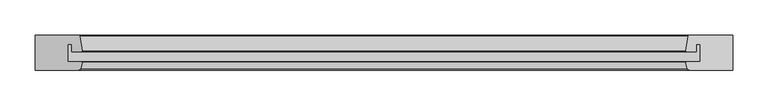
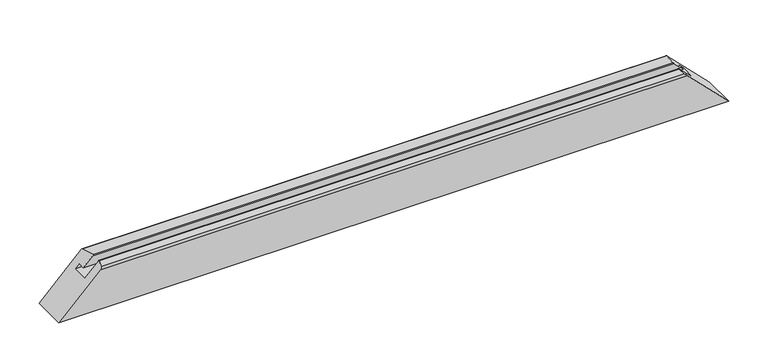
"""IFC4 building model written with IfcOpenShell, lengths in millimetres: proxy geometry, Weiku - Montante - Caixilho fixo 02.2.01.005 : Weiku - Montante - Caixilho fixo 02.2.01.005."""

from ifc_helpers import new_model, si_unit, frame, origin, place, context, project, spatial, ellipse_curve, source, transform, mapped, element, save
from ifc_brep_helpers import plane_surface, cylinder_surface, advanced_brep


def generic_models_4b9735fc(model_context):
    return source(origin(), model_context, "Body", "AdvancedBrep", [
        advanced_brep(
        [(-428.118227, -38.5070552, 66.881773), (-428.8909676, -37.5, 66.1090324), (-449.0, -37.5, 46.0), (-449.0, -12.5, 46.0), (-443.0009154, -12.5, 51.9990846), (-443.0009154, -23.5, 51.9990846), (-428.9865015, -23.5, 66.0134985), (-427.9998537, -22.3371317, 67.0001463), (-431.5489094, -0.8371317, 63.4510906), (-432.5355572, 0.0, 62.4644428), (-495.0, 0.0, 0.0), (-495.0, -50.0, 0.0), (-433.4997332, -50.0, 61.5002668), (-430.6019557, -47.7764571, 64.3980443), (430.6019557, -47.7764571, 64.3980443), (433.4997332, -50.0, 61.5002668), (495.0, -50.0, 0.0), (495.0, 0.0, 0.0), (432.5355572, 0.0, 62.4644428), (431.5489094, -0.8371317, 63.4510906), (427.9998537, -22.3371317, 67.0001463), (428.9865015, -23.5, 66.0134985), (443.0009154, -23.5, 51.9990846), (443.0009154, -12.5, 51.9990846), (449.0, -12.5, 46.0), (449.0, -37.5, 46.0), (428.8909676, -37.5, 66.1090324), (428.118227, -38.5070552, 66.881773)],
        [
            (0, 1, ellipse_curve(frame((-428.8909676, -38.3, 66.1090324), z_axis=(-0.7071067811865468, 0.0, 0.7071067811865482), x_axis=(-0.7071067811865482, 0.0, -0.7071067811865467)), 1.1313708, 0.8)),
            (1, 2),
            (2, 3),
            (3, 4),
            (4, 5),
            (5, 6),
            (6, 7, ellipse_curve(frame((-428.9865015, -22.5, 66.0134985), z_axis=(-0.7071067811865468, 0.0, 0.7071067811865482), x_axis=(-0.7071067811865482, 0.0, -0.7071067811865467)), 1.4142136, 1.0)),
            (7, 8),
            (8, 9, ellipse_curve(frame((-432.5355572, -1.0, 62.4644428), z_axis=(-0.7071067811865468, 0.0, 0.7071067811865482), x_axis=(-0.7071067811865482, 0.0, -0.7071067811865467)), 1.4142136, 1.0)),
            (9, 10),
            (10, 11),
            (11, 12),
            (12, 13, ellipse_curve(frame((-433.4997332, -47.0, 61.5002668), z_axis=(-0.7071067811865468, 0.0, 0.7071067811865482), x_axis=(-0.7071067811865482, 0.0, -0.7071067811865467)), 4.2426407, 3.0)),
            (13, 0),
            (14, 15, ellipse_curve(frame((433.4997332, -47.0, 61.5002668), z_axis=(0.7071067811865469, 0.0, 0.7071067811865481), x_axis=(-0.7071067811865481, 0.0, 0.7071067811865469)), 4.2426407, 3.0)),
            (15, 16),
            (16, 17),
            (17, 18),
            (18, 19, ellipse_curve(frame((432.5355572, -1.0, 62.4644428), z_axis=(0.7071067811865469, 0.0, 0.7071067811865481), x_axis=(-0.7071067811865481, 0.0, 0.7071067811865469)), 1.4142136, 1.0)),
            (19, 20),
            (20, 21, ellipse_curve(frame((428.9865015, -22.5, 66.0134985), z_axis=(0.7071067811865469, 0.0, 0.7071067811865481), x_axis=(-0.7071067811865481, 0.0, 0.7071067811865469)), 1.4142136, 1.0)),
            (21, 22),
            (22, 23),
            (23, 24),
            (24, 25),
            (25, 26),
            (26, 27, ellipse_curve(frame((428.8909676, -38.3, 66.1090324), z_axis=(0.7071067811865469, 0.0, 0.7071067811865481), x_axis=(-0.7071067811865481, 0.0, 0.7071067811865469)), 1.1313708, 0.8)),
            (27, 14),
            (13, 14),
            (27, 0),
            (12, 15),
            (11, 16),
            (10, 17),
            (9, 18),
            (8, 19),
            (7, 20),
            (6, 21),
            (5, 22),
            (4, 23),
            (3, 24),
            (2, 25),
            (1, 26),
        ],
        [
            plane_surface(frame((-565.0, 15.0, -70.0), z_axis=(-0.7071067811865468, 0.0, 0.7071067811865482), x_axis=(0.0, -1.0, 0.0))),
            plane_surface(frame((425.0, 15.0, 70.0), z_axis=(0.7071067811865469, 0.0, 0.7071067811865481), x_axis=(0.0, -1.0, 0.0))),
            plane_surface(frame((-495.0, -38.5070552, 66.881773), z_axis=(0.0, -0.2588190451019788, 0.9659258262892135), x_axis=(1.0, 0.0, 0.0))),
            cylinder_surface(frame((-495.0, -47.0, 61.5002668), z_axis=(-1.0, 0.0, 0.0), x_axis=(0.0, 1.0, 0.0)), 3.0),
            plane_surface(frame((-495.0, -50.0, 61.5002668), z_axis=(0.0, -1.0, 0.0), x_axis=(1.0, 0.0, 0.0))),
            plane_surface(frame((-495.0, -50.0, 0.0), z_axis=(0.0, 0.0, -1.0), x_axis=(1.0, 0.0, 0.0))),
            plane_surface(frame((-495.0, 0.0, 0.0), z_axis=(0.0, 1.0, 0.0), x_axis=(1.0, 0.0, 0.0))),
            cylinder_surface(frame((-495.0, -1.0, 62.4644428), z_axis=(-1.0, 0.0, 0.0), x_axis=(0.0, -1.0, 0.0)), 1.0),
            plane_surface(frame((-495.0, -0.8371317, 63.4510906), z_axis=(0.0, 0.16286828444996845, 0.9866478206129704), x_axis=(1.0, 0.0, 0.0))),
            cylinder_surface(frame((-495.0, -22.5, 66.0134985), z_axis=(-1.0, 0.0, 0.0), x_axis=(0.0, -1.0, 0.0)), 1.0),
            plane_surface(frame((-495.0, -23.5, 66.0134985), z_axis=(0.0, -1.0, 0.0), x_axis=(1.0, 0.0, 0.0))),
            plane_surface(frame((-495.0, -23.5, 51.9990846), z_axis=(0.0, 0.0, -1.0), x_axis=(1.0, 0.0, 0.0))),
            plane_surface(frame((-495.0, -12.5, 51.9990846), z_axis=(0.0, -1.0, 0.0), x_axis=(1.0, 0.0, 0.0))),
            plane_surface(frame((-495.0, -12.5, 46.0), z_axis=(0.0, 0.0, 1.0), x_axis=(1.0, 0.0, 0.0))),
            plane_surface(frame((-495.0, -37.5, 46.0), z_axis=(0.0, 1.0, 0.0), x_axis=(1.0, 0.0, 0.0))),
            cylinder_surface(frame((-495.0, -38.3, 66.1090324), z_axis=(-1.0, 0.0, 0.0), x_axis=(0.0, 1.0, 0.0)), 0.8),
        ],
        [
            (0, [[1, 2, 3, 4, 5, 6, 7, 8, 9, 10, 11, 12, 13, 14]]),
            (1, [[15, 16, 17, 18, 19, 20, 21, 22, 23, 24, 25, 26, 27, 28]]),
            (2, [[29, -28, 30, -14]]),
            (3, [[31, -15, -29, -13]]),
            (4, [[-16, -31, -12, 32]]),
            (5, [[-11, 33, -17, -32]]),
            (6, [[-10, 34, -18, -33]]),
            (7, [[35, -19, -34, -9]]),
            (8, [[36, -20, -35, -8]]),
            (9, [[37, -21, -36, -7]]),
            (10, [[38, -22, -37, -6]]),
            (11, [[39, -23, -38, -5]]),
            (12, [[40, -24, -39, -4]]),
            (13, [[41, -25, -40, -3]]),
            (14, [[42, -26, -41, -2]]),
            (15, [[-30, -27, -42, -1]]),
        ],
    ),
    ])


if __name__ == "__main__":
    model = new_model("IFC4")
    model_context = context("Model", 3, world=origin())
    ifc_project = project(units=[si_unit("LENGTHUNIT", "METRE", prefix="MILLI")], contexts=[model_context])
    site = spatial("IfcSite", under=ifc_project)
    building = spatial("IfcBuilding", under=site)
    placement = place(None, origin())
    generic_models_shape = generic_models_4b9735fc(model_context)
    element("IfcBuildingElementProxy", 1, Name="Weiku - Montante - Caixilho fixo 02.2.01.005 : Weiku - Montante - Caixilho fixo 02.2.01.005", ObjectType="Weiku - Montante - Caixilho fixo 02.2.01.005 : Weiku - Montante - Caixilho fixo 02.2.01.005", at=placement, inside=building, context=model_context, shape_type="MappedRepresentation", body=[
        mapped(generic_models_shape, transform((0.0, 0.0, 0.0), x_axis=(1.0, 0.0, 0.0), y_axis=(0.0, 1.0, 0.0), z_axis=(0.0, 0.0, 1.0))),
    ])
    save(model, "model.ifc")
